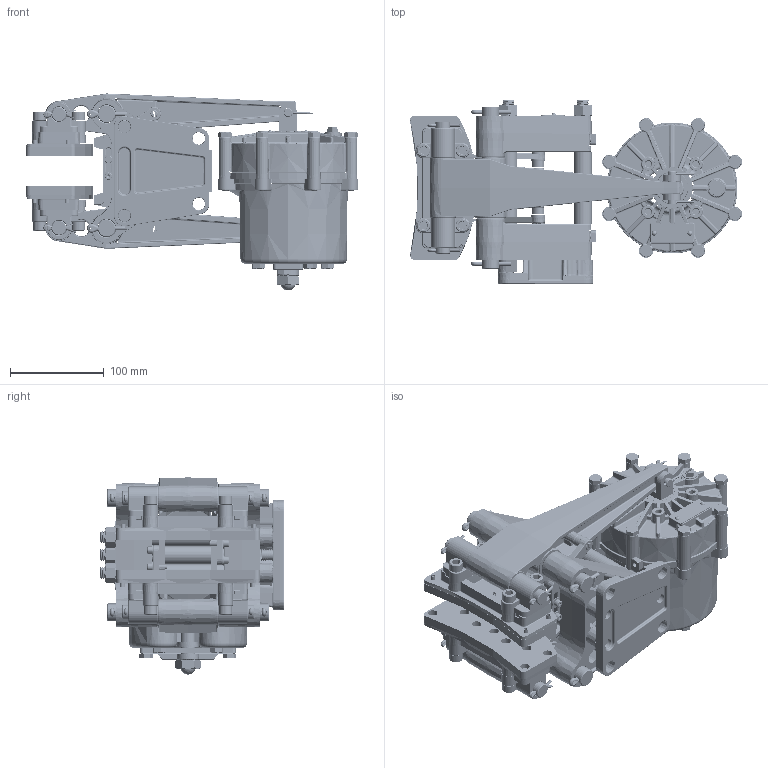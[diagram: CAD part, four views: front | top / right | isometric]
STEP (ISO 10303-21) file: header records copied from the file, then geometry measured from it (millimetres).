
FILE_DESCRIPTION (( 'STEP AP203' ), '1' );
FILE_NAME ('5020-SA-RH_revB.STEP', '2026-02-18T22:26:54', ( '' ), ( '' ), 'SwSTEP 2.0', 'SolidWorks 2023', '' );
FILE_SCHEMA (( 'CONFIG_CONTROL_DESIGN' ));
Length unit declared in the file: inch
Products named in the file (1): 5020-SA-RH_revB
Bounding box: 354.21 x 195.9 x 210.29 mm (x, y, z)
Surface area: 559062.8 mm2 (no closed solid volume)
Topology: 0 solids, 185 shells, 3821 faces, 12716 edges, 8618 vertices
Faces by surface type: plane 1121, cylinder 978, cone 664, bspline 553, torus 460, sphere 45
Entity records: 177175 total; most frequent: CARTESIAN_POINT 75704, DIRECTION 20092, ORIENTED_EDGE 19854, EDGE_CURVE 12645, VERTEX_POINT 8618, AXIS2_PLACEMENT_3D 7568, LINE 4956, VECTOR 4956
